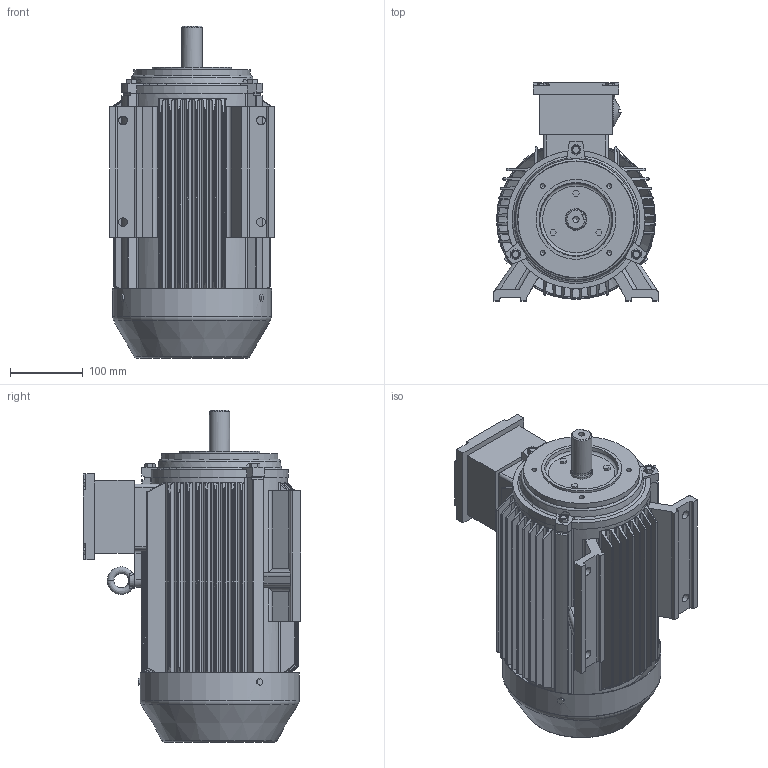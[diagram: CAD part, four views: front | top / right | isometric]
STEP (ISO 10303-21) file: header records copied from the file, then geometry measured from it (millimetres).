
FILE_DESCRIPTION(/* description */ (''),/* implementation_level */ '2;1');
FILE_NAME(/* name */ 'C:/Users/luigi_zhang/Desktop/temp/TE3-112M B34╔╧.step',/* time_stamp */ '2020-07-01T16:09:20+10:00',/* author */ (''),/* organization */ (''),/* preprocessor_version */ 'ST-DEVELOPER v18.1',/* originating_system */ 'Autodesk Translation Framework v9.3.0.1241',/* authorisation */ '');
FILE_SCHEMA (('AUTOMOTIVE_DESIGN { 1 0 10303 214 3 1 1 }'));
Length unit declared in the file: millimetre
Products named in the file (7): (Unsaved); TE3-112M»ú×ù B3ÉÏ; YX3-112 ·çÕÖ; GX112 P24 Í¹Ôµ¶Ë¸Ç£
¨B14,B34£©; YE3-112MÖá£¨ÖáÉì£©; eyebolts gb_GB_FASTENER_SCREWS_FRS M8-N; hex head bolts-reduced shank grade b gb_GB_FASTENER_BOLT_HHBB M8X50-N
Assembly tree (8 placements, depth 2):
  (Unsaved)
    TE3-112M»ú×ù B3ÉÏ
    YX3-112 ·çÕÖ
    GX112 P24 Í¹Ôµ¶Ë¸Ç£
¨B14,B34£©
    hex head bolts-reduced shank grade b gb_GB_FASTENER_BOLT_HHBB M8X50-N  x3
    YE3-112MÖá£¨ÖáÉì£©
    eyebolts gb_GB_FASTENER_SCREWS_FRS M8-N
Bounding box: 226 x 300 x 457 mm (x, y, z)
Volume: 4118952.6 mm3; surface area: 1039167.4 mm2
Topology: 8 solids, 8 shells, 1439 faces, 3824 edges, 2529 vertices
Faces by surface type: plane 743, cylinder 586, cone 70, torus 21, bspline 19
Full cylindrical faces by diameter (mm): 6 x1, 6.8 x4, 7.188 x3, 8 x8, 8.5 x1, 9.2 x3, 10 x3, 12 x4, 27.5 x1, 28 x1, 29.5 x1, 30 x2, 38 x1, 110 x1, 160 x1, 175 x1, 178 x1, 217 x1, 219 x1
Entity records: 49834 total; most frequent: CARTESIAN_POINT 14525, ORIENTED_EDGE 7510, DIRECTION 7118, EDGE_CURVE 3755, VERTEX_POINT 2487, AXIS2_PLACEMENT_3D 2453, LINE 2212, VECTOR 2212
